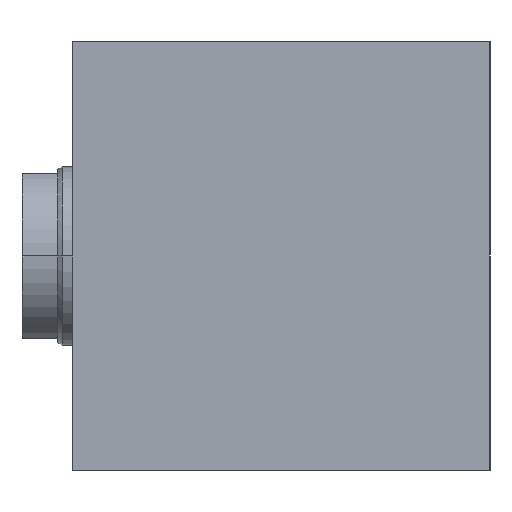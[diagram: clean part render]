
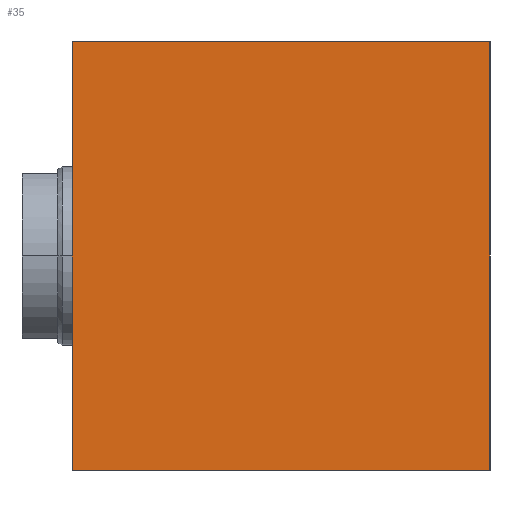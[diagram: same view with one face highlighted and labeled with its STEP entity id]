
A CAD part, left-side view. The second image highlights one B-rep face of the part: STEP entity #35.
In plain terms, the highlighted planar face has unit normal (-1, 0, 0).
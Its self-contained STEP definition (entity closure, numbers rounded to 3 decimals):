
#35 = ADVANCED_FACE ( 'NONE', ( #576 ), #1266, .F. ) ;
#143 = CARTESIAN_POINT ( 'NONE',  ( -80., 117., 60. ) ) ;
#210 = DIRECTION ( 'NONE',  ( 0., -1., 0. ) ) ;
#301 = ORIENTED_EDGE ( 'NONE', *, *, #961, .T. ) ;
#445 = VERTEX_POINT ( 'NONE', #1210 ) ;
#468 = CARTESIAN_POINT ( 'NONE',  ( -80., 117., -60. ) ) ;
#498 = DIRECTION ( 'NONE',  ( 0., 0., -1. ) ) ;
#576 = FACE_OUTER_BOUND ( 'NONE', #1541, .T. ) ;
#674 = DIRECTION ( 'NONE',  ( 0., 0., 1. ) ) ;
#747 = ORIENTED_EDGE ( 'NONE', *, *, #1928, .F. ) ;
#846 = ORIENTED_EDGE ( 'NONE', *, *, #1133, .T. ) ;
#853 = CARTESIAN_POINT ( 'NONE',  ( -80., 0., 60. ) ) ;
#961 = EDGE_CURVE ( 'NONE', #445, #2254, #1982, .T. ) ;
#1133 = EDGE_CURVE ( 'NONE', #2254, #2374, #1768, .T. ) ;
#1210 = CARTESIAN_POINT ( 'NONE',  ( -80., 117., -60. ) ) ;
#1266 = PLANE ( 'NONE',  #2064 ) ;
#1332 = VERTEX_POINT ( 'NONE', #143 ) ;
#1335 = CARTESIAN_POINT ( 'NONE',  ( -80., 0., -60. ) ) ;
#1343 = VECTOR ( 'NONE', #674, 1000. ) ;
#1406 = LINE ( 'NONE', #468, #1343 ) ;
#1470 = CARTESIAN_POINT ( 'NONE',  ( -80., 85., -60. ) ) ;
#1541 = EDGE_LOOP ( 'NONE', ( #846, #1989, #747, #301 ) ) ;
#1550 = VECTOR ( 'NONE', #2126, 1000. ) ;
#1614 = LINE ( 'NONE', #1762, #1550 ) ;
#1652 = DIRECTION ( 'NONE',  ( 0., 0., 1. ) ) ;
#1661 = DIRECTION ( 'NONE',  ( 1., 0., 0. ) ) ;
#1762 = CARTESIAN_POINT ( 'NONE',  ( -80., 85., 60. ) ) ;
#1768 = LINE ( 'NONE', #1979, #2420 ) ;
#1916 = VECTOR ( 'NONE', #210, 1000. ) ;
#1928 = EDGE_CURVE ( 'NONE', #445, #1332, #1406, .T. ) ;
#1979 = CARTESIAN_POINT ( 'NONE',  ( -80., 0., -60. ) ) ;
#1982 = LINE ( 'NONE', #2342, #1916 ) ;
#1989 = ORIENTED_EDGE ( 'NONE', *, *, #2060, .F. ) ;
#2060 = EDGE_CURVE ( 'NONE', #1332, #2374, #1614, .T. ) ;
#2064 = AXIS2_PLACEMENT_3D ( 'NONE', #1470, #1661, #498 ) ;
#2126 = DIRECTION ( 'NONE',  ( 0., -1., 0. ) ) ;
#2254 = VERTEX_POINT ( 'NONE', #1335 ) ;
#2342 = CARTESIAN_POINT ( 'NONE',  ( -80., 85., -60. ) ) ;
#2374 = VERTEX_POINT ( 'NONE', #853 ) ;
#2420 = VECTOR ( 'NONE', #1652, 1000. ) ;
